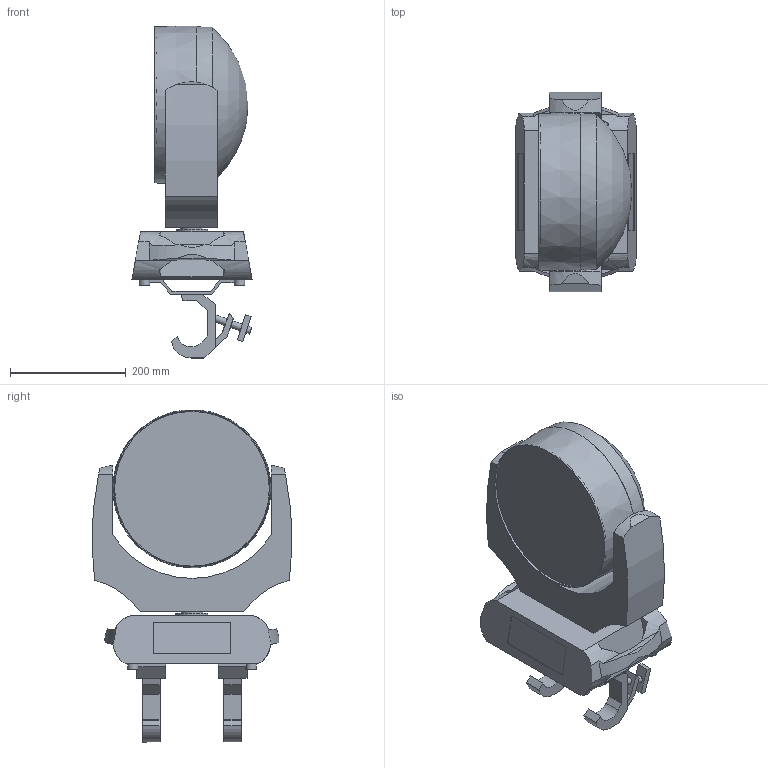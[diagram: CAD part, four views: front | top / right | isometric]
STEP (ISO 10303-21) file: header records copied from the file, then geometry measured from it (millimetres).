
FILE_DESCRIPTION(/* description */ ('Unknown'),/* implementation_level */ '2;1');
FILE_NAME(/* name */ '3D_Robin600LEDWash_00',/* time_stamp */ '2019-01-03T14:06:22+01:00',/* author */ ('Ing.Rostislav HĂˇba'),/* organization */ ('ROBE lighting'),/* preprocessor_version */ 'ST-DEVELOPER v16.7',/* originating_system */ 'DEX',/* authorisation */ $);
FILE_SCHEMA (('AUTOMOTIVE_DESIGN {1 0 10303 214 3 1 1}'));
Length unit declared in the file: millimetre
Products named in the file (7): Robin 600 LedWash; Základna; Rameno600; Hlava600; Omega_SlimClamp_00; Omega+SlimClamp; Clamp Doughty Slimline QT
Assembly tree (7 placements, depth 3):
  Robin 600 LedWash
    Základna
    Rameno600
    Hlava600
    Omega_SlimClamp_00  x2
      Omega+SlimClamp
      Clamp Doughty Slimline QT
Bounding box: 207.24 x 344.82 x 572.44 mm (x, y, z)
Volume: 14718571.2 mm3; surface area: 716944.5 mm2
Topology: 7 solids, 7 shells, 189 faces, 490 edges, 329 vertices
Faces by surface type: plane 133, cylinder 45, bspline 8, cone 2, sphere 1
Full cylindrical faces by diameter (mm): 11 x4, 12 x8, 13 x6, 18 x4, 35 x3, 38 x1, 55 x1, 266.811 x1
Entity records: 4813 total; most frequent: CARTESIAN_POINT 1429, ORIENTED_EDGE 640, DIRECTION 630, EDGE_CURVE 320, VERTEX_POINT 226, AXIS2_PLACEMENT_3D 213, LINE 204, VECTOR 204
